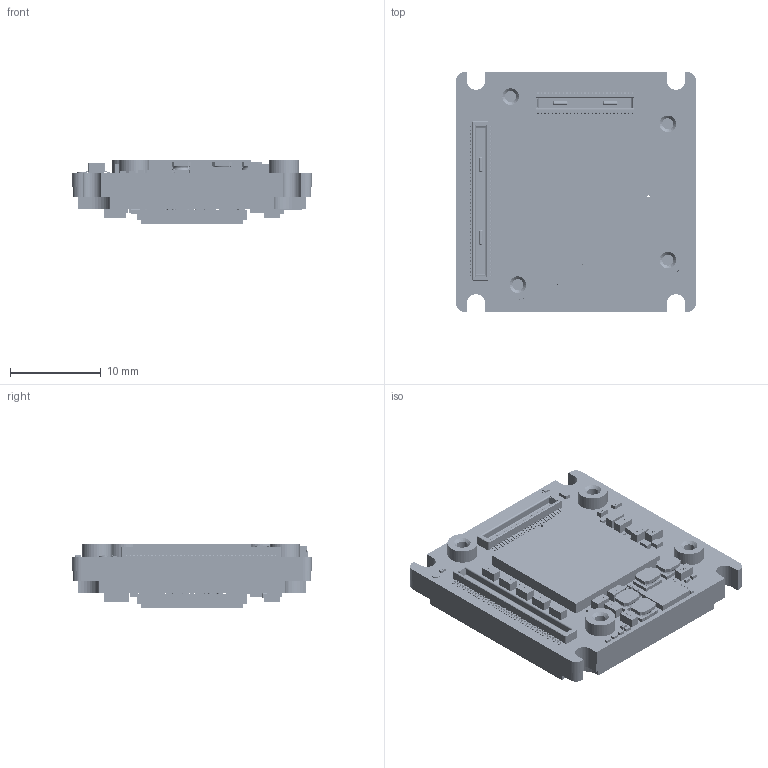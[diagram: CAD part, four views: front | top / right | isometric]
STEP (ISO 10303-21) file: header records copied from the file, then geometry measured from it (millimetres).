
FILE_DESCRIPTION (( 'STEP AP214' ), '1' );
FILE_NAME ('Alvium-Extended-Bare-Board-AR0521.STEP', '2022-11-29T08:36:25', ( '' ), ( '' ), 'SwSTEP 2.0', 'SolidWorks 2021', '' );
FILE_SCHEMA (( 'AUTOMOTIVE_DESIGN' ));
Length unit declared in the file: millimetre
Products named in the file (1): Alvium-Extended-Bare-Board-AR0521
Bounding box: 26.4 x 26.4 x 7.14 mm (x, y, z)
Surface area: 4103.8 mm2 (no closed solid volume)
Topology: 0 solids, 171 shells, 10697 faces, 27578 edges, 18139 vertices
Faces by surface type: plane 5126, bspline 4665, cylinder 842, torus 40, cone 24
Entity records: 704410 total; most frequent: CARTESIAN_POINT 356473, ORIENTED_EDGE 55124, DIRECTION 31958, EDGE_CURVE 27562, VERTEX_POINT 18140, VECTOR 16412, LINE 16412, EDGE_LOOP 11638
